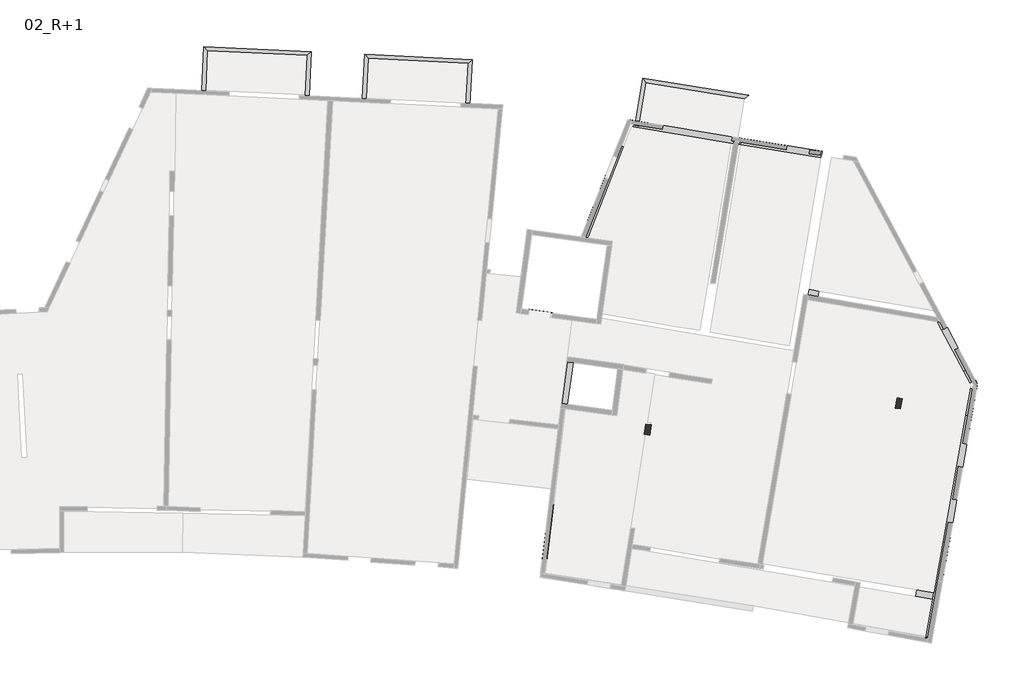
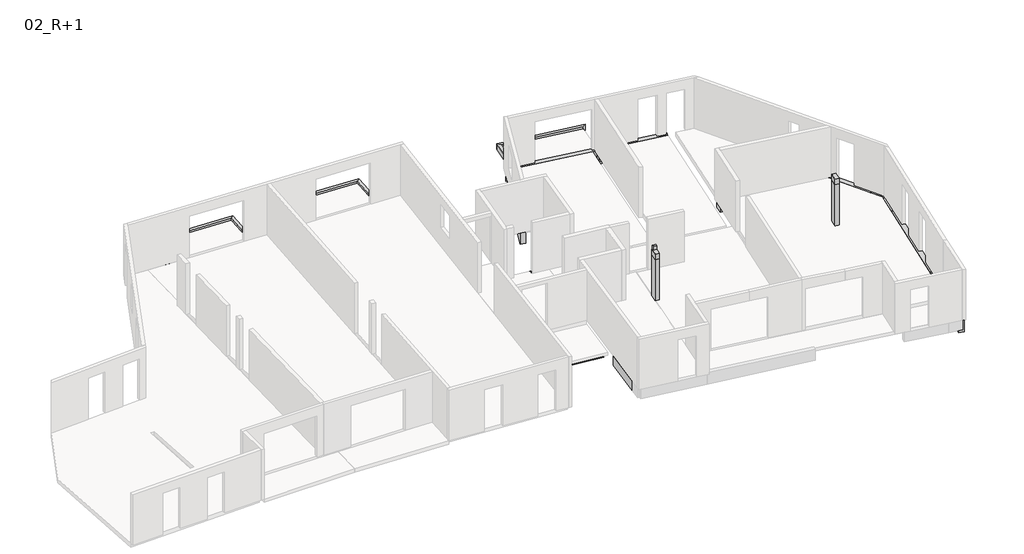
# One storey, part 3 of 3: 23 beams, 2 columns.
"""IFC4 building model written with IfcOpenShell, lengths in millimetres."""

from ifc_helpers import new_model, si_unit, point, frame, frame_2d, origin, place, context, project, spatial, polyline, circle_curve, trimmed, segment, composite_curve, outline, extrude, faceted_brep, element, save
from ifc_brep_helpers import plane_surface, cylinder_surface, revolved_surface, advanced_brep

model = new_model("IFC4")

# Units and contexts
model_context = context("Model", 3, world=origin())
ifc_project = project(units=[si_unit("LENGTHUNIT", "METRE", prefix="MILLI")], contexts=[model_context])

# Site, building, storey
site = spatial("IfcSite", under=ifc_project)
building = spatial("IfcBuilding", under=site)
storey = spatial("IfcBuildingStorey", under=building, Name="02_R+1", Elevation=24440.0)

# Beams
placement = place(None, origin())
element("IfcBeam", 1, ObjectType="Poutre_Rect_2013_JBE : 15x30ht", at=placement, inside=storey, context=model_context, shape_type="Brep", body=[
    faceted_brep([(-4972.207375, 17017.2653209, 24240.0), (-4897.6313746, 18555.1338898, 24240.0), (-4897.6313746, 18555.1338898, 24540.0), (-4972.2195206, 17017.0148605, 24540.0), (-4972.2195206, 17017.0148605, 24440.0), (-4972.207375, 17017.2653209, 24440.0), (-5122.0313226, 17024.5306313, 24240.0), (-5040.1898905, 18712.2232578, 24240.0), (-5122.0313226, 17024.5306313, 24440.0), (-5122.0434682, 17024.2801709, 24440.0), (-5122.0434682, 17024.2801709, 24540.0), (-5040.1898905, 18712.2232578, 24540.0)], [[[0, 1, 2, 3, 4, 5]], [[1, 0, 6, 7]], [[7, 6, 8, 9, 10, 11]], [[2, 11, 10, 3]], [[5, 8, 6, 0]], [[8, 5, 4, 9]], [[2, 1, 7, 11]], [[4, 3, 10, 9]]]),
])
element("IfcBeam", 2, ObjectType="Poutre_Rect_2013_JBE : 15x30ht", at=placement, inside=storey, context=model_context, shape_type="Brep", body=[
    faceted_brep([(-1056.2104012, 18368.851513, 24540.0), (-4897.6313746, 18555.1338898, 24540.0), (-4897.6313746, 18555.1338898, 24440.0), (-4897.6313746, 18555.1338898, 24240.0), (-1056.2104012, 18368.851513, 24240.0), (-1056.2104012, 18368.851513, 24440.0), (-5040.1898905, 18712.2232578, 24240.0), (-899.1212018, 18511.4100371, 24240.0), (-5040.1898905, 18712.2232578, 24540.0), (-899.1212018, 18511.4100371, 24540.0)], [[[0, 1, 2, 3, 4, 5]], [[4, 3, 6, 7]], [[7, 6, 8, 9]], [[1, 0, 9, 8]], [[1, 8, 6, 3, 2]], [[4, 7, 9, 0, 5]]]),
])
element("IfcBeam", 3, ObjectType="Poutre_Rect_2013_JBE : 15x30ht", at=placement, inside=storey, context=model_context, shape_type="Brep", body=[
    faceted_brep([(-899.1212018, 18511.4100371, 24240.0), (-899.1212018, 18511.4100371, 24540.0), (-980.9727249, 16823.470055, 24540.0), (-980.9727249, 16823.470055, 24440.0), (-980.9605796, 16823.7205154, 24440.0), (-980.9605796, 16823.7205154, 24240.0), (-1056.2104012, 18368.851513, 24240.0), (-1130.7845271, 16830.9858258, 24240.0), (-1129.8435578, 16850.3904702, 24240.0), (-1130.7845271, 16830.9858258, 24440.0), (-1130.7966725, 16830.7353654, 24440.0), (-1130.7966725, 16830.7353654, 24540.0), (-1056.2104012, 18368.851513, 24540.0), (-1056.2104012, 18368.851513, 24440.0)], [[[0, 1, 2, 3, 4, 5]], [[6, 0, 5, 7, 8]], [[7, 9, 10, 11, 12, 13, 6, 8]], [[1, 12, 11, 2]], [[1, 0, 6, 13, 12]], [[4, 9, 7, 5]], [[9, 4, 3, 10]], [[3, 2, 11, 10]]]),
])
element("IfcBeam", 4, ObjectType="Poutre_Rect_2013_JBE : 15x30ht", at=placement, inside=storey, context=model_context, shape_type="SweptSolid", body=[
    extrude(outline(polyline([(1288.9694931, 18255.1284693), (1214.3814562, 16717.0122438), (1064.5575086, 16724.2775542), (1146.41098, 18412.2178398), (1288.9694931, 18255.1284693)])), frame((0.0, 0.0, 24240.0), z_axis=(0.0, 0.0, 1.0), x_axis=(1.0, 0.0, 0.0)), (0.0, 0.0, 1.0), 300.0),
])
element("IfcBeam", 5, ObjectType="Poutre_Rect_2013_JBE : 15x30ht", at=placement, inside=storey, context=model_context, shape_type="SweptSolid", body=[
    extrude(outline(polyline([(5130.3708975, 18068.8469743), (1288.9694931, 18255.1284693), (1146.41098, 18412.2178398), (5287.4574311, 18211.4056251), (5130.3708975, 18068.8469743)])), frame((0.0, 0.0, 24240.0), z_axis=(0.0, 0.0, 1.0), x_axis=(1.0, 0.0, 0.0)), (0.0, 0.0, 1.0), 300.0),
])
element("IfcBeam", 6, ObjectType="Poutre_Rect_2013_JBE : 15x30ht", at=placement, inside=storey, context=model_context, shape_type="Brep", body=[
    faceted_brep([(5287.4574311, 18211.4056251, 24540.0), (5201.7626974, 16443.560883, 24540.0), (5201.7626974, 16443.560883, 24440.0), (5205.6360797, 16523.4670587, 24440.0), (5205.6360797, 16523.4670587, 24240.0), (5287.4574311, 18211.4056251, 24240.0), (5130.3708975, 18068.8469743, 24240.0), (5055.8121321, 16530.7323691, 24240.0), (5051.9387498, 16450.8261934, 24540.0), (5130.3708975, 18068.8469743, 24540.0), (5055.8121321, 16530.7323691, 24440.0), (5051.9387498, 16450.8261934, 24440.0)], [[[0, 1, 2, 3, 4, 5]], [[6, 5, 4, 7]], [[8, 9, 6, 7, 10, 11]], [[1, 0, 9, 8]], [[1, 8, 11, 2]], [[3, 10, 7, 4]], [[10, 3, 2, 11]], [[0, 5, 6, 9]]]),
])
element("IfcBeam", 7, ObjectType="Poutre_Rect_2013_JBE : 15x30ht", at=placement, inside=storey, context=model_context, shape_type="Brep", body=[
    faceted_brep([(15759.3325739, 16706.9753034, 24540.0), (11974.5745111, 17328.1102707, 24540.0), (11974.5745111, 17328.1102707, 24440.0), (11974.5745111, 17328.1102707, 24270.0), (11974.5745111, 17328.1102707, 24240.0), (15759.3325739, 16706.9753034, 24240.0), (15759.3325739, 16706.9753034, 24270.0), (15759.3325739, 16706.9753034, 24440.0), (11850.8469023, 17500.4224121, 24240.0), (15931.6447179, 16830.7029279, 24240.0), (11850.8469023, 17500.4224121, 24540.0), (15931.6447179, 16830.7029279, 24540.0)], [[[0, 1, 2, 3, 4, 5, 6, 7]], [[5, 4, 8, 9]], [[9, 8, 10, 11]], [[1, 0, 11, 10]], [[1, 10, 8, 4, 3, 2]], [[5, 9, 11, 0, 7, 6]]]),
])
element("IfcBeam", 8, ObjectType="Poutre_Rect_2013_JBE : 15x30ht", at=placement, inside=storey, context=model_context, shape_type="Brep", body=[
    faceted_brep([(11699.2606972, 15650.5433294, 24540.0), (11551.2408155, 15674.8356048, 24540.0), (11551.2408155, 15674.8356048, 24440.0), (11699.2606972, 15650.5433294, 24440.0), (11702.5592362, 15670.6422849, 24440.0), (11702.5592362, 15670.6422849, 24540.0), (11554.5486125, 15694.990971, 24440.0), (11554.5486125, 15694.990971, 24540.0)], [[[0, 1, 2, 3]], [[0, 3, 4, 5]], [[3, 2, 6, 4]], [[5, 4, 6, 7]], [[2, 1, 7, 6]], [[1, 0, 5, 7]]]),
    faceted_brep([(11850.8469023, 17500.4224121, 24240.0), (11974.5745111, 17328.1102707, 24240.0), (11728.4125486, 15828.1740173, 24240.0), (11580.3925757, 15852.465737, 24240.0), (11850.8469023, 17500.4224121, 24540.0), (11580.3925757, 15852.465737, 24440.0), (11580.4603748, 15852.8788562, 24440.0), (11580.4603748, 15852.8788562, 24540.0), (11974.5745111, 17328.1102707, 24540.0), (11728.4709985, 15828.5301701, 24540.0), (11728.4125486, 15828.1740173, 24440.0), (11728.4709985, 15828.5301701, 24440.0)], [[[0, 1, 2, 3]], [[4, 0, 3, 5, 6, 7]], [[8, 4, 7, 9]], [[8, 1, 0, 4]], [[2, 10, 5, 3]], [[6, 11, 9, 7]], [[11, 6, 5, 10]], [[1, 8, 9, 11, 10, 2]]]),
])
element("IfcBeam", 9, ObjectType="Poutre_Rect_2013_JBE : 18x65ht", at=placement, inside=storey, context=model_context, shape_type="Brep", body=[
    faceted_brep([(8371.7136302, 8473.1303421, 23790.0), (8371.7136302, 8473.1303421, 24440.0), (8369.0528573, 8453.5767845, 24440.0), (8369.0528573, 8453.5767845, 23790.0), (7479.9321931, 8594.4805313, 23790.0), (7455.6621553, 8416.1242439, 23790.0), (7455.6621553, 8416.1242439, 24240.0), (7479.9321931, 8594.4805313, 24240.0), (8283.7532007, 8303.4407983, 24240.0), (8283.7532007, 8303.4407983, 23790.0), (8305.3869702, 8462.2496817, 23790.0), (8308.0493352, 8481.7935346, 24240.0), (8308.0493352, 8481.7935346, 24440.0), (8305.3869702, 8462.2496817, 24440.0), (8305.3869702, 8462.2496817, 24240.0)], [[[0, 1, 2, 3]], [[4, 5, 6, 7]], [[8, 6, 5, 9]], [[5, 4, 0, 3, 10, 9]], [[1, 0, 4, 7, 11, 12]], [[1, 12, 13, 2]], [[6, 8, 14, 11, 7]], [[12, 11, 14, 13]], [[14, 10, 3, 2, 13]], [[10, 14, 8, 9]]]),
])
element("IfcBeam", 10, ObjectType="Poutre_Rect_2013_JBE : 20x50ht", at=placement, inside=storey, context=model_context, shape_type="AdvancedBrep", body=[
    advanced_brep(
    [(8457.7706268, 1150.1165083, 24440.0), (8457.7706268, 1150.1165083, 23940.0), (8456.2837707, 1150.2984297, 23940.0), (8456.2837707, 1150.2984297, 24440.0), (8248.532485, 1086.8023891, 23940.0), (7991.7362208, -1012.0112595, 23940.0), (7991.7362208, -1012.0112595, 24440.0), (8249.8320699, 1097.4239862, 24440.0), (8249.8320699, 1097.4239862, 24390.0), (8248.532485, 1086.8023891, 24390.0), (8378.5307224, 502.4832829, 23940.0), (8190.2557949, -1036.3007361, 23940.0), (8190.2557949, -1036.3007361, 24440.0), (8378.5307224, 502.4832829, 24390.0), (8448.6574159, 1075.6336045, 24390.0), (8448.6574159, 1075.6336045, 23940.0), (8448.5427496, 1085.7750582, 24440.0), (8448.5427496, 1085.7750582, 24390.0), (8448.5427496, 1085.7750582, 23940.0)],
    [
        (0, 1),
        (1, 2),
        (2, 3),
        (3, 0),
        (4, 5),
        (5, 6),
        (6, 7),
        (7, 8),
        (8, 9),
        (9, 4),
        (10, 11),
        (11, 5),
        (4, 10, circle_curve(frame((9660.9405484, 1094.4118938, 23940.0), z_axis=(0.0, 0.0, 1.0), x_axis=(1.0, 0.0, 0.0)), 1412.4285618)),
        (0, 12),
        (12, 11),
        (10, 13),
        (13, 14),
        (14, 15),
        (15, 1),
        (3, 16),
        (16, 7),
        (6, 12),
        (13, 9, circle_curve(frame((9660.9405484, 1094.4118938, 24390.0), z_axis=(0.0, 0.0, -1.0), x_axis=(1.0, 0.0, 0.0)), 1412.4285618)),
        (8, 17),
        (17, 14, circle_curve(frame((9660.9405484, 1094.4118938, 24390.0), z_axis=(0.0, 0.0, 1.0), x_axis=(1.0, 0.0, 0.0)), 1212.4285618)),
        (16, 17),
        (17, 18),
        (18, 15, circle_curve(frame((9660.9405484, 1094.4118938, 23940.0), z_axis=(0.0, 0.0, 1.0), x_axis=(1.0, 0.0, 0.0)), 1212.4285618)),
        (18, 2),
    ],
    [
        plane_surface(frame((8259.2510527, 1174.4059849, 24440.0), z_axis=(0.12144738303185, 0.9925978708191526, 0.0), x_axis=(0.0, 0.0, 1.0))),
        plane_surface(frame((7991.7362208, -1012.0112595, 24440.0), z_axis=(-0.9925978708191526, 0.12144738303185, 0.0), x_axis=(0.12144738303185, 0.9925978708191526, 0.0))),
        plane_surface(frame((7991.7362208, -1012.0112595, 23940.0), z_axis=(0.0, 0.0, -1.0000000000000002), x_axis=(0.12144738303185, 0.9925978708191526, 0.0))),
        plane_surface(frame((8190.2557949, -1036.3007361, 23940.0), z_axis=(0.9925978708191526, -0.12144738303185, 0.0), x_axis=(0.12144738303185, 0.9925978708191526, 0.0))),
        plane_surface(frame((8190.2557949, -1036.3007361, 24440.0), z_axis=(0.0, 0.0, 1.0000000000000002), x_axis=(0.12144738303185, 0.9925978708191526, 0.0))),
        plane_surface(frame((10873.3691101, 1094.4118938, 24390.0), z_axis=(0.0, 0.0, -1.0), x_axis=(0.0, -1.0, 0.0))),
        revolved_surface(polyline([(11073.3691102, 1094.4118938, 24390.0), (11073.3691102, 1094.4118938, 23940.0)]), (9660.9405484, 1094.4118938, 21740.0), (0.0, 0.0, 1.0)),
        plane_surface(frame((8248.5153651, 1097.5011748, 21740.0), z_axis=(0.05852208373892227, 0.9982861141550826, 0.0), x_axis=(0.9982861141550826, -0.05852208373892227, 0.0))),
        cylinder_surface(frame((9660.9405484, 1094.4118938, 21740.0), z_axis=(0.0, 0.0, -1.0), x_axis=(1.0, 0.0, 0.0)), 1212.4285618),
        plane_surface(frame((8889.7898242, 4763.6811979, 21740.0), z_axis=(-0.99288008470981, 0.11911816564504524, 0.0), x_axis=(0.11911816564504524, 0.99288008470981, 0.0))),
        plane_surface(frame((8090.9960079, -1024.1559978, 24440.0), z_axis=(-0.12144738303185, -0.9925978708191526, 0.0), x_axis=(0.9925978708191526, -0.12144738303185, 0.0))),
    ],
    [
        (0, [[1, 2, 3, 4]]),
        (1, [[5, 6, 7, 8, 9, 10]]),
        (2, [[11, 12, -5, 13]]),
        (3, [[-1, 14, 15, -11, 16, 17, 18, 19]]),
        (4, [[-14, -4, 20, 21, -7, 22]]),
        (5, [[-17, 23, -9, 24, 25]]),
        (6, [[-16, -13, -10, -23]]),
        (7, [[-24, -8, -21, 26]]),
        (8, [[-25, 27, 28, -18]]),
        (2, [[-19, -28, 29, -2]]),
        (9, [[-26, -20, -3, -29, -27]]),
        (10, [[-6, -12, -15, -22]]),
    ],
),
])
element("IfcBeam", 11, ObjectType="Poutre_Rect_2013_JBE : 20x50ht", at=placement, inside=storey, context=model_context, shape_type="SweptSolid", body=[
    extrude(outline(polyline([(8362.1542942, 2247.6240473), (8337.9399826, 2049.0952909), (5141.6270048, 2438.9457081), (5165.8413164, 2637.4744645), (8362.1542942, 2247.6240473)])), frame((0.0, 0.0, 23740.0), z_axis=(0.0, 0.0, 1.0), x_axis=(1.0, 0.0, 0.0)), (0.0, 0.0, 1.0), 340.0),
])
element("IfcBeam", 12, ObjectType="Poutre_Rect_2013_JBE : 20x60ht", at=placement, inside=storey, context=model_context, shape_type="SweptSolid", body=[
    extrude(outline(polyline([(8974.1662317, 6568.7279186), (9172.3359866, 6541.7325813), (8953.6689733, 4936.5703204), (8755.4992183, 4963.5656577), (8974.1662317, 6568.7279186)])), frame((0.0, 0.0, 23840.0), z_axis=(0.0, 0.0, 1.0), x_axis=(1.0, 0.0, 0.0)), (0.0, 0.0, 1.0), 600.0),
])
element("IfcBeam", 13, ObjectType="Poutre_Rect_2013_JBE : 25x65ht", at=placement, inside=storey, context=model_context, shape_type="Brep", body=[
    faceted_brep([(22361.9624906, -2445.4482204, 24340.0), (22403.4183767, -2198.9093604, 24340.0), (22403.4183767, -2198.9093604, 24240.0), (22403.4183767, -2198.9093604, 23690.0), (22361.9624906, -2445.4482204, 23690.0), (22361.9624906, -2445.4482204, 24280.0), (23001.6710442, -2553.0161915, 23690.0), (23001.6710442, -2553.0161915, 24340.0), (23000.6395192, -2552.842739, 24340.0), (23045.6984842, -2306.9097422, 23690.0), (23045.6984842, -2306.9097422, 24340.0), (23045.6984842, -2306.9097422, 24240.0)], [[[0, 1, 2, 3, 4, 5]], [[6, 7, 8, 0, 5, 4]], [[4, 3, 9, 6]], [[1, 10, 11, 9, 3, 2]], [[1, 0, 8, 7, 10]], [[7, 6, 9, 11, 10]]]),
])
element("IfcBeam", 14, ObjectType="Poutre_Rect_2013_JBE : 25x75ht", at=placement, inside=storey, context=model_context, shape_type="Brep", body=[
    faceted_brep([(23643.7249475, -383.6825518, 24440.0), (23375.2118588, -1884.628392, 24440.0), (22981.2561272, -4086.778832, 24440.0), (22981.2561272, -4086.778832, 23690.0), (23643.7249475, -383.6825518, 23690.0), (22735.1630647, -4042.7537869, 23690.0), (23001.6710442, -2553.0161915, 23690.0), (23045.6984842, -2306.9097422, 23690.0), (23397.631885, -339.6575067, 23690.0), (22735.1630647, -4042.7537869, 23940.0), (22741.7910606, -4005.7043351, 23940.0), (22741.7910606, -4005.7043351, 24440.0), (23045.6984842, -2306.9097422, 24440.0), (23397.5944422, -339.866806, 24440.0), (23397.631885, -339.6575067, 24440.0), (23397.631885, -339.6575067, 24240.0), (22864.7913001, -4027.9756208, 24440.0), (22858.209596, -4064.7663094, 24440.0), (22858.209596, -4064.7663094, 23940.0), (22864.7913001, -4027.9756208, 23940.0)], [[[0, 1, 2, 3, 4]], [[4, 3, 5, 6, 7, 8]], [[8, 7, 6, 5, 9, 10, 11, 12, 13, 14, 15]], [[2, 1, 0, 14, 13, 12, 11, 16, 17]], [[5, 3, 2, 17, 18, 9]], [[0, 4, 8, 15, 14]], [[18, 19, 10, 9]], [[19, 16, 11, 10]], [[16, 19, 18, 17]]]),
])
element("IfcBeam", 15, ObjectType="Poutre_Rect_2013_JBE : 25x75ht", at=placement, inside=storey, context=model_context, shape_type="Brep", body=[
    faceted_brep([(24514.347312, 4482.9592292, 24440.0), (24321.8469795, 3406.912714, 24440.0), (24163.3568171, 2520.9776891, 24440.0), (23937.9485861, 1260.9812092, 24440.0), (23779.4584237, 375.0461842, 24440.0), (23643.6875047, -383.8918511, 24440.0), (23643.6875047, -383.8918511, 23690.0), (24514.347312, 4482.9592292, 23690.0), (23397.5944422, -339.866806, 23690.0), (24268.2542496, 4526.9842743, 23690.0), (23397.5944422, -339.866806, 24240.0), (23397.5944422, -339.866806, 24440.0), (23397.631885, -339.6575067, 24440.0), (24268.2542496, 4526.9842743, 24440.0), (24268.2542496, 4526.9842743, 24240.0)], [[[0, 1, 2, 3, 4, 5, 6, 7]], [[7, 6, 8, 9]], [[9, 8, 10, 11, 12, 13, 14]], [[5, 4, 3, 2, 1, 0, 13, 12, 11]], [[5, 11, 10, 8, 6]], [[0, 7, 9, 14, 13]]]),
])
element("IfcBeam", 16, ObjectType="Poutre_Rect_2013_JBE : 25x75ht", at=placement, inside=storey, context=model_context, shape_type="SweptSolid", body=[
    extrude(outline(composite_curve([segment(polyline([(24410.4256827, 6339.5166642), (24721.9994873, 5757.6904321), (24705.0330981, 5748.6047598)]), True, "CONTINUOUS"), segment(trimmed(circle_curve(frame_2d((24574.4257967, 5674.836658)), 150.0), [point((24705.0330981, 5748.6047598))], [point((24443.5401794, 5748.1098125))], True, "CARTESIAN"), True, "CONTINUOUS"), segment(polyline([(24443.5401794, 5748.1098125), (24190.0369585, 6221.4962836), (24410.4256827, 6339.5166642)]), True, "CONTINUOUS")], self_intersect=False)), frame((0.0, 0.0, 23690.0), z_axis=(0.0, 0.0, 1.0), x_axis=(1.0, 0.0, 0.0)), (0.0, 0.0, 1.0), 750.0),
])
element("IfcBeam", 17, ObjectType="Poutre_Rect_2013_JBE : 25x75ht", at=placement, inside=storey, context=model_context, shape_type="AdvancedBrep", body=[
    advanced_brep(
    [(11368.4105376, 15887.2543412, 24440.0), (11580.3925757, 15852.465737, 24440.0), (11728.4125486, 15828.1740173, 24440.0), (15477.859891, 15212.8481116, 24440.0), (15477.859891, 15212.8481116, 23690.0), (11368.4105376, 15887.2543412, 23690.0), (15437.3736915, 14966.1481569, 23690.0), (11466.8231292, 15617.759554, 23690.0), (11516.7226919, 15729.4730378, 23690.0), (11367.1334471, 15879.4724754, 23690.0), (15437.3736915, 14966.1481569, 23840.0), (15437.3736915, 14966.1481569, 24440.0), (15347.0115648, 14980.9775844, 24440.0), (15244.3698108, 14997.8222349, 24440.0), (11466.8231292, 15617.759554, 24440.0), (11466.8231292, 15617.759554, 23790.0), (11367.1334471, 15879.4724754, 24440.0), (11516.7226919, 15729.4730378, 24440.0), (15456.7095352, 15083.9698303, 24440.0), (11367.1334471, 15879.4724754, 23790.0), (11516.7226919, 15729.4730378, 23790.0)],
    [
        (0, 1),
        (1, 2),
        (2, 3),
        (3, 4),
        (4, 5),
        (5, 0),
        (4, 6),
        (6, 7),
        (7, 8, circle_curve(frame((11366.7226919, 15729.4730378, 23690.0), z_axis=(0.0, 0.0, 1.0), x_axis=(1.0, 0.0, 0.0)), 150.0)),
        (8, 9, circle_curve(frame((11366.7226919, 15729.4730378, 23690.0), z_axis=(0.0, 0.0, 1.0), x_axis=(1.0, 0.0, 0.0)), 150.0)),
        (9, 5),
        (6, 10),
        (10, 11),
        (11, 12),
        (12, 13),
        (13, 14),
        (14, 15),
        (15, 7),
        (0, 16),
        (16, 17, circle_curve(frame((11366.7226919, 15729.4730378, 24440.0), z_axis=(0.0, 0.0, -1.0), x_axis=(1.0, 0.0, 0.0)), 150.0)),
        (17, 14, circle_curve(frame((11366.7226919, 15729.4730378, 24440.0), z_axis=(0.0, 0.0, -1.0), x_axis=(1.0, 0.0, 0.0)), 150.0)),
        (11, 18),
        (18, 3),
        (9, 19),
        (19, 16),
        (8, 20),
        (20, 19, circle_curve(frame((11366.7226919, 15729.4730378, 23790.0), z_axis=(0.0, 0.0, 1.0), x_axis=(1.0, 0.0, 0.0)), 150.0)),
        (15, 20, circle_curve(frame((11366.7226919, 15729.4730378, 23790.0), z_axis=(0.0, 0.0, 1.0), x_axis=(1.0, 0.0, 0.0)), 150.0)),
        (17, 20),
    ],
    [
        plane_surface(frame((11368.4105376, 15887.2543412, 24440.0), z_axis=(0.161944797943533, 0.9867998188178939, 0.0), x_axis=(0.9867998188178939, -0.161944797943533, 0.0))),
        plane_surface(frame((11368.4105376, 15887.2543412, 23690.0), z_axis=(0.0, 0.0, -1.0), x_axis=(0.9867998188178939, -0.161944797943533, 0.0))),
        plane_surface(frame((11327.9243381, 15640.5543865, 23690.0), z_axis=(-0.161944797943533, -0.9867998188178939, 0.0), x_axis=(0.9867998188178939, -0.161944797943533, 0.0))),
        plane_surface(frame((11327.9243381, 15640.5543865, 24440.0), z_axis=(0.0, 0.0, 1.0), x_axis=(0.9867998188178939, -0.161944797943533, 0.0))),
        plane_surface(frame((15457.6167912, 15089.4981343, 24440.0), z_axis=(0.9867998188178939, -0.161944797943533, 0.0), x_axis=(0.161944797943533, 0.9867998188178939, 0.0))),
        plane_surface(frame((11348.1674378, 15763.9043639, 24440.0), z_axis=(-0.9867998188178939, 0.161944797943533, 0.0), x_axis=(0.161944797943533, 0.9867998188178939, 0.0))),
        revolved_surface(polyline([(11516.7226919, 15729.4730378, 23790.0), (11516.7226919, 15729.4730378, 23690.0)]), (11366.7226919, 15729.4730378, 18290.0), (0.0, 0.0, 1.0)),
        revolved_surface(polyline([(11516.7226919, 15729.4730378, 24440.0), (11516.7226919, 15729.4730378, 23790.0)]), (11366.7226919, 15729.4730378, 23790.0), (0.0, 0.0, 1.0)),
    ],
    [
        (0, [[1, 2, 3, 4, 5, 6]]),
        (1, [[-5, 7, 8, 9, 10, 11]]),
        (2, [[12, 13, 14, 15, 16, 17, 18, -8]]),
        (3, [[-3, -2, -1, 19, 20, 21, -16, -15, -14, 22, 23]]),
        (4, [[-23, -22, -13, -12, -7, -4]]),
        (5, [[-6, -11, 24, 25, -19]]),
        (6, [[26, 27, -24, -10]]),
        (6, [[-26, -9, -18, 28]]),
        (7, [[29, -28, -17, -21]]),
        (7, [[-29, -20, -25, -27]]),
    ],
),
])
element("IfcBeam", 18, ObjectType="Poutre_Rect_2013_JBE : 25x75ht", at=placement, inside=storey, context=model_context, shape_type="Brep", body=[
    faceted_brep([(9494.3700288, 11388.057325, 24440.0), (10895.3530696, 14941.286648, 24440.0), (10895.3530696, 14941.286648, 23690.0), (9494.3700288, 11388.057325, 23690.0), (11127.9277909, 14849.5860537, 23690.0), (9749.3306665, 11353.1327888, 23690.0), (11127.9277909, 14849.5860537, 24240.0), (11127.9277909, 14849.5860537, 24440.0), (9749.3306665, 11353.1327888, 24440.0), (9749.3306665, 11353.1327888, 24240.0), (9657.5448369, 11365.7056219, 24440.0)], [[[0, 1, 2, 3]], [[3, 2, 4, 5]], [[5, 4, 6, 7, 8, 9]], [[1, 0, 10, 8, 7]], [[0, 3, 5, 9, 8, 10]], [[1, 7, 6, 4, 2]]]),
])
element("IfcBeam", 19, ObjectType="Poutre_Rect_2013_JBE : 25x75ht", at=placement, inside=storey, context=model_context, shape_type="AdvancedBrep", body=[
    advanced_brep(
    [(15587.6599552, 15197.8130631, 24240.0), (15661.6699416, 15185.6672032, 24240.0), (15661.6699416, 15185.6672032, 24440.0), (18763.0548285, 14676.6955362, 24440.0), (18763.0548285, 14676.6955362, 23690.0), (15587.6599552, 15197.8130631, 23690.0), (15605.9460596, 15084.095361, 23690.0), (15582.1441697, 15165.1757964, 23690.0), (15582.3224987, 15165.2903702, 23690.0), (18742.8117287, 14553.3455588, 23690.0), (18733.5457775, 14554.8662042, 23690.0), (18712.6281716, 14431.6269208, 23690.0), (15530.3837705, 14953.8685312, 23690.0), (15530.3837705, 14953.8685312, 23790.0), (18712.6281716, 14431.6269208, 24240.0), (18712.6281716, 14431.6269208, 24440.0), (15634.395889, 14936.7989887, 24440.0), (15633.364649, 14936.9682266, 24440.0), (15633.364649, 14936.9682266, 23840.0), (15530.3837705, 14953.8685312, 23840.0), (18733.5457775, 14554.8662042, 24440.0), (18742.8117287, 14553.3455588, 24440.0), (15658.5656815, 15182.0046745, 24440.0), (15602.5358386, 15115.8984535, 24440.0), (15605.9460596, 15084.095361, 24440.0), (15603.9367737, 15059.6260225, 24440.0), (15652.1944564, 15051.7064014, 24440.0), (15605.9460596, 15084.095361, 23790.0), (15582.1441697, 15165.1757964, 23790.0), (15603.9367737, 15059.6260225, 23840.0), (15602.5358386, 15115.8984535, 24240.0), (15582.1441697, 15165.1757964, 24240.0), (15582.3224987, 15165.2903702, 24240.0), (15652.1944564, 15051.7064014, 23840.0)],
    [
        (0, 1),
        (1, 2),
        (2, 3),
        (3, 4),
        (4, 5),
        (5, 0),
        (6, 7, circle_curve(frame((15455.9460596, 15084.095361, 23690.0), z_axis=(0.0, 0.0, 1.0), x_axis=(1.0, 0.0, 0.0)), 150.0)),
        (7, 8),
        (8, 5),
        (4, 9),
        (9, 10),
        (10, 11),
        (11, 12),
        (12, 6, circle_curve(frame((15455.9460596, 15084.095361, 23690.0), z_axis=(0.0, 0.0, 1.0), x_axis=(1.0, 0.0, 0.0)), 150.0)),
        (13, 12),
        (11, 14),
        (14, 15),
        (15, 16),
        (16, 17),
        (17, 18),
        (18, 19),
        (19, 13),
        (15, 20),
        (20, 21),
        (21, 3),
        (2, 22),
        (22, 23),
        (23, 24, circle_curve(frame((15455.9460596, 15084.095361, 24440.0), z_axis=(0.0, 0.0, -1.0), x_axis=(1.0, 0.0, 0.0)), 150.0)),
        (24, 25, circle_curve(frame((15455.9460596, 15084.095361, 24440.0), z_axis=(0.0, 0.0, -1.0), x_axis=(1.0, 0.0, 0.0)), 150.0)),
        (25, 26),
        (26, 17),
        (6, 27),
        (27, 28, circle_curve(frame((15455.9460596, 15084.095361, 23790.0), z_axis=(0.0, 0.0, 1.0), x_axis=(1.0, 0.0, 0.0)), 150.0)),
        (28, 7),
        (13, 27, circle_curve(frame((15455.9460596, 15084.095361, 23790.0), z_axis=(0.0, 0.0, 1.0), x_axis=(1.0, 0.0, 0.0)), 150.0)),
        (24, 27),
        (19, 29, circle_curve(frame((15455.9460596, 15084.095361, 23840.0), z_axis=(0.0, 0.0, 1.0), x_axis=(1.0, 0.0, 0.0)), 150.0)),
        (29, 25),
        (23, 30),
        (30, 31, circle_curve(frame((15455.9460596, 15084.095361, 24240.0), z_axis=(0.0, 0.0, 1.0), x_axis=(1.0, 0.0, 0.0)), 150.0)),
        (31, 28),
        (10, 20),
        (30, 1),
        (0, 32),
        (32, 31),
        (8, 32),
        (9, 21),
        (33, 26),
        (29, 33),
        (18, 33),
    ],
    [
        plane_surface(frame((15625.0314046, 15191.6799936, 24440.0), z_axis=(0.16194479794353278, 0.986799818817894, 0.0), x_axis=(0.986799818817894, -0.16194479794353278, 0.0))),
        plane_surface(frame((15625.0314046, 15191.6799936, 23690.0), z_axis=(0.0, 0.0, -1.0000000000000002), x_axis=(0.986799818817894, -0.16194479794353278, 0.0))),
        plane_surface(frame((15584.5452051, 14944.9800389, 23690.0), z_axis=(-0.16194479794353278, -0.986799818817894, 0.0), x_axis=(0.986799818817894, -0.16194479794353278, 0.0))),
        plane_surface(frame((15584.5452051, 14944.9800389, 24440.0), z_axis=(0.0, 0.0, 1.0000000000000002), x_axis=(0.986799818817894, -0.16194479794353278, 0.0))),
        revolved_surface(polyline([(15605.9460596, 15084.095361, 23790.0), (15605.9460596, 15084.095361, 23690.0)]), (15455.9460596, 15084.095361, 21470.0), (0.0, 0.0, 1.0)),
        revolved_surface(polyline([(15605.9460596, 15084.095361, 24440.0), (15605.9460596, 15084.095361, 23790.0)]), (15455.9460596, 15084.095361, 23790.0), (0.0, 0.0, 1.0)),
        plane_surface(frame((17471.7099261, 7120.5667484, 24440.0), z_axis=(0.9858995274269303, -0.1673383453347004, 0.0), x_axis=(0.1673383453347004, 0.9858995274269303, 0.0))),
        plane_surface(frame((15508.3125566, 15177.4365001, 24240.0), z_axis=(0.0, 0.0, 1.0000000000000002), x_axis=(0.16194839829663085, 0.986799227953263, 0.0))),
        plane_surface(frame((15661.6699416, 15185.6672032, 24440.0), z_axis=(-0.7628522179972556, 0.6465728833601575, 0.0), x_axis=(0.6465728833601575, 0.7628522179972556, 0.0))),
        plane_surface(frame((15855.2551943, 16828.349568, 23315.0), z_axis=(-0.9867992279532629, 0.16194839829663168, 0.0), x_axis=(0.16194839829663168, 0.9867992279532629, 0.0))),
        plane_surface(frame((15519.1342791, 15124.6928656, 23315.0), z_axis=(-0.5405362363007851, 0.8413207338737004, 0.0), x_axis=(0.8413207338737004, 0.5405362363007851, 0.0))),
        plane_surface(frame((19334.89162, 14456.1786801, 24440.0), z_axis=(-0.16194479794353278, -0.986799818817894, 0.0), x_axis=(0.0, 0.0, 1.0))),
        plane_surface(frame((18763.0548285, 14676.6955362, 24440.0), z_axis=(0.986799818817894, -0.16194479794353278, 0.0), x_axis=(0.0, 0.0, -1.0))),
        plane_surface(frame((15257.4745289, 15116.4843206, 24440.0), z_axis=(-0.16194479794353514, -0.9867998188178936, 0.0), x_axis=(0.0, 0.0, 1.0))),
        plane_surface(frame((14593.7644621, 11072.2113217, 23840.0), z_axis=(0.0, 0.0, 1.0), x_axis=(0.16194479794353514, 0.9867998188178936, 0.0))),
        plane_surface(frame((14988.4843896, 11007.4334025, 23840.0), z_axis=(-0.9867998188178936, 0.16194479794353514, 0.0), x_axis=(0.16194479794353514, 0.9867998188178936, 0.0))),
    ],
    [
        (0, [[1, 2, 3, 4, 5, 6]]),
        (1, [[7, 8, 9, -5, 10, 11, 12, 13, 14]]),
        (2, [[15, -13, 16, 17, 18, 19, 20, 21, 22]]),
        (3, [[23, 24, 25, -3, 26, 27, 28, 29, 30, 31, -19, -18]]),
        (4, [[32, 33, 34, -7]]),
        (4, [[-32, -14, -15, 35]]),
        (5, [[36, -35, -22, 37, 38, -29]]),
        (5, [[-36, -28, 39, 40, 41, -33]]),
        (6, [[-12, 42, -23, -17, -16]]),
        (7, [[43, -1, 44, 45, -40]]),
        (8, [[-43, -39, -27, -26, -2]]),
        (9, [[-9, 46, -44, -6]]),
        (10, [[-8, -34, -41, -45, -46]]),
        (11, [[-42, -11, 47, -24]]),
        (12, [[-4, -25, -47, -10]]),
        (13, [[48, -30, -38, 49]]),
        (14, [[-49, -37, -21, 50]]),
        (15, [[-48, -50, -20, -31]]),
    ],
),
])
element("IfcBeam", 20, ObjectType="Poutre_Rect_2013_JBE : 25x75ht", at=placement, inside=storey, context=model_context, shape_type="Brep", body=[
    faceted_brep([(23247.877437, 8510.4342944, 24440.0), (23569.541268, 7909.7661637, 24440.0), (23569.541268, 7909.7661637, 23690.0), (23247.877437, 8510.4342944, 23690.0), (23349.1525437, 7791.7457831, 23690.0), (23174.9182296, 8117.1072, 23690.0), (23349.1525437, 7791.7457831, 24240.0), (23349.1525437, 7791.7457831, 24440.0), (23174.9182296, 8117.1072, 24440.0), (23174.9182296, 8117.1072, 24240.0)], [[[0, 1, 2, 3]], [[3, 2, 4, 5]], [[5, 4, 6, 7, 8, 9]], [[1, 0, 8, 7]], [[1, 7, 6, 4, 2]], [[0, 3, 5, 9, 8]]]),
])
element("IfcBeam", 21, ObjectType="Poutre_Rect_2013_JBE : 25x75ht", at=placement, inside=storey, context=model_context, shape_type="Brep", body=[
    faceted_brep([(23569.541268, 7909.7661637, 24440.0), (23573.6768735, 7902.0434227, 24440.0), (23998.5502434, 7108.6440153, 24440.0), (24410.4256827, 6339.5166642, 24440.0), (24410.4256827, 6339.5166642, 23690.0), (23569.541268, 7909.7661637, 23690.0), (24190.0369585, 6221.4962836, 23690.0), (23349.1525437, 7791.7457831, 23690.0), (24190.0369585, 6221.4962836, 24240.0), (24190.0369585, 6221.4962836, 24440.0), (23349.1525437, 7791.7457831, 24440.0), (23349.1525437, 7791.7457831, 24240.0)], [[[0, 1, 2, 3, 4, 5]], [[5, 4, 6, 7]], [[7, 6, 8, 9, 10, 11]], [[3, 2, 1, 0, 10, 9]], [[0, 5, 7, 11, 10]], [[3, 9, 8, 6, 4]]]),
])
element("IfcBeam", 22, ObjectType="Poutre_Rect_2013_JBE : 25x75ht", at=placement, inside=storey, context=model_context, shape_type="AdvancedBrep", body=[
    advanced_brep(
    [(24729.1895322, 5683.8933741, 24440.0), (24691.8359397, 5475.0926801, 24440.0), (24514.347312, 4482.9592292, 24440.0), (24514.347312, 4482.9592292, 23690.0), (24729.1895322, 5683.8933741, 23690.0), (24268.2542496, 4526.9842743, 23690.0), (24456.9211098, 5581.6022837, 23690.0), (24724.4257967, 5674.836658, 23690.0), (24724.0942103, 5684.8049064, 23690.0), (24268.2542496, 4526.9842743, 24240.0), (24268.2542496, 4526.9842743, 24440.0), (24456.9211098, 5581.6022837, 24440.0), (24456.9211098, 5581.6022837, 24240.0), (24724.0942103, 5684.8049064, 24440.0), (24724.4257967, 5674.836658, 24440.0)],
    [
        (0, 1),
        (1, 2),
        (2, 3),
        (3, 4),
        (4, 0),
        (3, 5),
        (5, 6),
        (6, 7, circle_curve(frame((24574.4257967, 5674.836658, 23690.0), z_axis=(0.0, 0.0, 1.0), x_axis=(1.0, 0.0, 0.0)), 150.0)),
        (7, 8, circle_curve(frame((24574.4257967, 5674.836658, 23690.0), z_axis=(0.0, 0.0, 1.0), x_axis=(1.0, 0.0, 0.0)), 150.0)),
        (8, 4),
        (5, 9),
        (9, 10),
        (10, 11),
        (11, 12),
        (12, 6),
        (0, 13),
        (13, 14, circle_curve(frame((24574.4257967, 5674.836658, 24440.0), z_axis=(0.0, 0.0, -1.0), x_axis=(1.0, 0.0, 0.0)), 150.0)),
        (14, 11, circle_curve(frame((24574.4257967, 5674.836658, 24440.0), z_axis=(0.0, 0.0, -1.0), x_axis=(1.0, 0.0, 0.0)), 150.0)),
        (10, 2),
        (14, 7),
        (13, 8),
    ],
    [
        plane_surface(frame((24729.1895322, 5683.8933741, 24440.0), z_axis=(0.9843722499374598, -0.17610018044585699, 0.0), x_axis=(-0.17610018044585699, -0.9843722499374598, 0.0))),
        plane_surface(frame((24729.1895322, 5683.8933741, 23690.0), z_axis=(0.0, 0.0, -1.0000000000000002), x_axis=(-0.17610018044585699, -0.9843722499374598, 0.0))),
        plane_surface(frame((24483.0964697, 5727.9184192, 23690.0), z_axis=(-0.9843722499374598, 0.17610018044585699, 0.0), x_axis=(-0.17610018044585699, -0.9843722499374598, 0.0))),
        plane_surface(frame((24483.0964697, 5727.9184192, 24440.0), z_axis=(0.0, 0.0, 1.0000000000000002), x_axis=(-0.17610018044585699, -0.9843722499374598, 0.0))),
        revolved_surface(polyline([(24724.4257967, 5674.836658, 24440.0), (24724.4257967, 5674.836658, 23690.0)]), (24574.4257967, 5674.836658, 23690.0), (0.0, 0.0, 1.0)),
        plane_surface(frame((24606.1430009, 5705.9058967, 24440.0), z_axis=(0.17610018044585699, 0.9843722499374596, 0.0), x_axis=(0.9843722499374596, -0.17610018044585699, 0.0))),
        plane_surface(frame((24391.3007808, 4504.9717517, 24440.0), z_axis=(-0.17610018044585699, -0.9843722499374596, 0.0), x_axis=(0.9843722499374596, -0.17610018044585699, 0.0))),
    ],
    [
        (0, [[1, 2, 3, 4, 5]]),
        (1, [[-4, 6, 7, 8, 9, 10]]),
        (2, [[-7, 11, 12, 13, 14, 15]]),
        (3, [[-2, -1, 16, 17, 18, -13, 19]]),
        (4, [[20, -8, -15, -14, -18]]),
        (4, [[-20, -17, 21, -9]]),
        (5, [[-5, -10, -21, -16]]),
        (6, [[-19, -12, -11, -6, -3]]),
    ],
),
])
element("IfcBeam", 23, ObjectType="Poutre_Rect_2013_JBE : 40x60ht", at=placement, inside=storey, context=model_context, shape_type="Brep", body=[
    faceted_brep([(18258.6031816, 9366.3024045, 24440.0), (18633.4789682, 9301.9956106, 24440.0), (18633.4789682, 9301.9956106, 24240.0), (18633.4789682, 9301.9956106, 23840.0), (18258.6031816, 9366.3024045, 23840.0), (18258.6031816, 9366.3024045, 24240.0), (18565.8501525, 8907.7541322, 23840.0), (18191.6677399, 8971.9419836, 23840.0), (18565.8501525, 8907.7541322, 24240.0), (18565.8501525, 8907.7541322, 24440.0), (18191.6677399, 8971.9419836, 24440.0), (18191.6677399, 8971.9419836, 24240.0)], [[[0, 1, 2, 3, 4, 5]], [[6, 7, 4, 3]], [[7, 6, 8, 9, 10, 11]], [[10, 9, 1, 0]], [[4, 7, 11, 10, 0, 5]], [[1, 9, 8, 6, 3, 2]]]),
])

# Columns
element("IfcColumn", 24, ObjectType="Pot_Rect_2013_JBE : 200x400", at=placement, inside=storey, context=model_context, shape_type="SweptSolid", body=[
    extrude(outline(polyline([(21643.4057905, 5191.5592403), (21840.2845052, 5156.3630517), (21769.892128, 4762.6056223), (21573.0134132, 4797.8018109), (21643.4057905, 5191.5592403)])), frame((0.0, 0.0, 26640.0), z_axis=(0.0, 0.0, 1.0), x_axis=(1.0, 0.0, 0.0)), (0.0, 0.0, 1.0), 300.0),
    extrude(outline(polyline([(21769.892128, 4762.6056223), (21573.0134132, 4797.8018109), (21643.4057905, 5191.5592403), (21840.2845052, 5156.3630517), (21769.892128, 4762.6056223)])), frame((0.0, 0.0, 24440.0), z_axis=(0.0, 0.0, 1.0), x_axis=(1.0, 0.0, 0.0)), (0.0, 0.0, 1.0), 2200.0),
])
element("IfcColumn", 25, ObjectType="Pot_Rect_2013_JBE : 200x400", at=placement, inside=storey, context=model_context, shape_type="SolidModel", body=[
    faceted_brep([(12151.8479197, 4056.448485, 27140.0), (12166.9071346, 4152.7986982, 27140.0), (12009.2918511, 4177.4210006, 27140.0), (11994.2232268, 4081.0846954, 27140.0), (12176.5126736, 4151.2981427, 26640.0), (11978.9092945, 4182.1672948, 26640.0), (11978.9092945, 4182.1672948, 26940.0), (12009.2918511, 4177.4210006, 26940.0), (12166.9071346, 4152.7986982, 26940.0), (12176.5126736, 4151.2981427, 26940.0), (11917.1709902, 3786.9605365, 26640.0), (11917.1709902, 3786.9605365, 26940.0), (12114.7743694, 3756.0913844, 26640.0), (12114.7743694, 3756.0913844, 26940.0), (12151.8479197, 4056.448485, 26940.0), (11994.2232268, 4081.0846954, 26940.0)], [[[0, 1, 2, 3]], [[4, 5, 6, 7, 2, 1, 8, 9]], [[5, 10, 11, 6]], [[10, 12, 13, 11]], [[12, 4, 9, 13]], [[5, 4, 12, 10]], [[9, 8, 14, 15, 7, 6, 11, 13]], [[7, 15, 3, 2]], [[14, 0, 3, 15]], [[0, 14, 8, 1]]]),
    extrude(outline(polyline([(12114.7743694, 3756.0913844), (11917.1709902, 3786.9605365), (11978.9092945, 4182.1672948), (12176.5126736, 4151.2981427), (12114.7743694, 3756.0913844)])), frame((0.0, 0.0, 24440.0), z_axis=(0.0, 0.0, 1.0), x_axis=(1.0, 0.0, 0.0)), (0.0, 0.0, 1.0), 2200.0),
])

save(model, "model.ifc")
